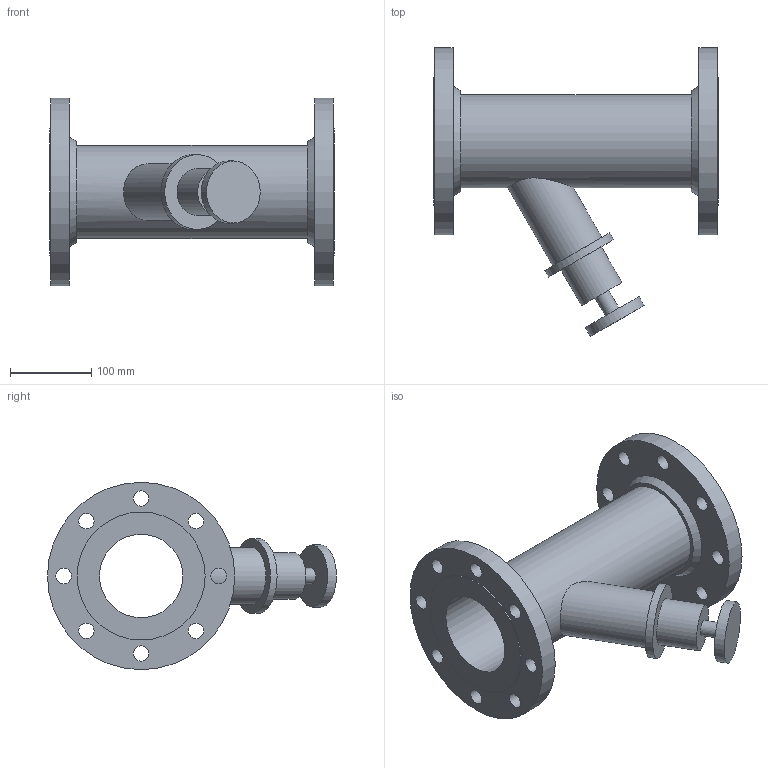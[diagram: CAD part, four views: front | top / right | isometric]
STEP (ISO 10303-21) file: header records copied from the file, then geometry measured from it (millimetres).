
FILE_DESCRIPTION(/* description */ ('VIC TA CIRCUIT BALANCING VALVE SERIES 788 (FLG)','CAx-IF Rec.Pracs.---Representation and Presentation of Product Manufacturing Information (PMI)---4.0---2014-10-13'),/* implementation_level */ '2;1');
FILE_NAME(/* name */ 'C:\Users\Vjadhav\AppData\Roaming\Autodesk\ApplicationPlugins\Back Up\Victaulic-IPS-TA Balancing Valve Series 788\Victaulic-IPS-TA Balancing Valve Series 788_4 (100).stp',/* time_stamp */ '2020-03-19T19:19:41+06:00',/* author */ ('cps_temp'),/* organization */ ('Victaulic'),/* preprocessor_version */ 'ST-DEVELOPER v17.2',/* originating_system */ 'Autodesk Inventor 2019',/* authorisation */ '');
FILE_SCHEMA (('AP242_MANAGED_MODEL_BASED_3D_ENGINEERING_MIM_LF { 1 0 10303 442 1 1 4 }'));
Length unit declared in the file: inch
Products named in the file (1): 788-04.0
Bounding box: 350.01 x 355.09 x 230.12 mm (x, y, z)
Volume: 2714522 mm3; surface area: 445260.2 mm2
Topology: 1 solids, 1 shells, 42 faces, 115 edges, 85 vertices
Faces by surface type: cylinder 27, plane 13, cone 2
Full cylindrical faces by diameter (mm): 19.05 x17, 57.15 x1, 69.85 x1, 76.2 x1, 92.05 x1, 102.26 x1, 114.3 x1, 157.226 x2, 230.124 x2
Entity records: 1720 total; most frequent: CARTESIAN_POINT 323, DIRECTION 306, ORIENTED_EDGE 230, AXIS2_PLACEMENT_3D 138, EDGE_CURVE 115, EDGE_LOOP 86, VERTEX_POINT 85, CIRCLE 82
